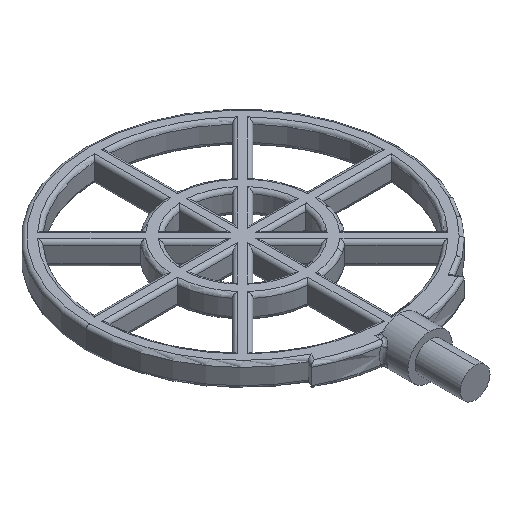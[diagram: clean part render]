
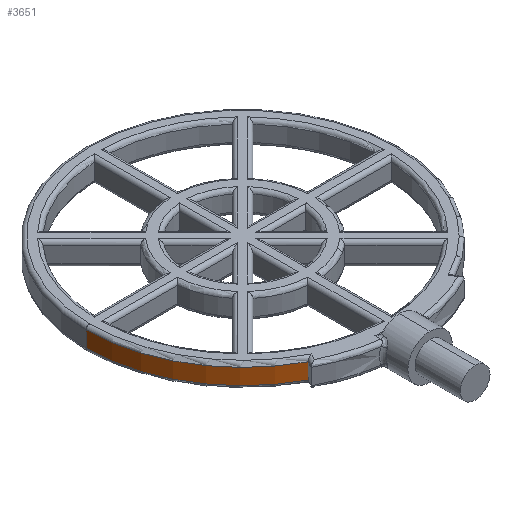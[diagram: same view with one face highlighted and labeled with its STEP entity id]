
A CAD part, isometric view. The second image highlights one B-rep face of the part: STEP entity #3651.
In plain terms, the highlighted cylindrical face has radius 11.049 mm (diameter 22.098 mm), a partial arc.
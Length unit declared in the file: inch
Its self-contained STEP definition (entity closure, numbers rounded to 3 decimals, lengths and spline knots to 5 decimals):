
#167 = CARTESIAN_POINT ( 'NONE',  ( -0.20316, 0.60536, 5.57778 ) ) ;
#168 = DIRECTION ( 'NONE',  ( 0., 0., -1. ) ) ;
#177 = CARTESIAN_POINT ( 'NONE',  ( 0., 0.99, 5.093 ) ) ;
#178 = DIRECTION ( 'NONE',  ( 0., 0., 1. ) ) ;
#179 = DIRECTION ( 'NONE',  ( 1., 0., 0. ) ) ;
#185 = CARTESIAN_POINT ( 'NONE',  ( 0., 0.99, 5.137 ) ) ;
#186 = DIRECTION ( 'NONE',  ( 0., 0., -1. ) ) ;
#187 = DIRECTION ( 'NONE',  ( 1., 0., 0. ) ) ;
#188 = CARTESIAN_POINT ( 'NONE',  ( -0.435, 0.99, 5.147 ) ) ;
#189 = DIRECTION ( 'NONE',  ( 0., 0., -1. ) ) ;
#795 = FACE_OUTER_BOUND ( 'NONE', #1148, .T. ) ;
#801 = CYLINDRICAL_SURFACE ( 'NONE', #4720, 0.435 ) ;
#1148 = EDGE_LOOP ( 'NONE', ( #2142, #2109, #2141, #2136 ) ) ;
#2109 = ORIENTED_EDGE ( 'NONE', *, *, #5329, .T. ) ;
#2136 = ORIENTED_EDGE ( 'NONE', *, *, #5323, .F. ) ;
#2141 = ORIENTED_EDGE ( 'NONE', *, *, #5325, .T. ) ;
#2142 = ORIENTED_EDGE ( 'NONE', *, *, #5327, .T. ) ;
#2537 = VERTEX_POINT ( 'NONE', #6038 ) ;
#2552 = VERTEX_POINT ( 'NONE', #6063 ) ;
#2607 = VERTEX_POINT ( 'NONE', #6409 ) ;
#2643 = VERTEX_POINT ( 'NONE', #6410 ) ;
#3651 = ADVANCED_FACE ( 'NONE', ( #795 ), #801, .T. ) ;
#3876 = DIRECTION ( 'NONE',  ( -1., 0., 0. ) ) ;
#3879 = DIRECTION ( 'NONE',  ( 0., 0., -1. ) ) ;
#3888 = CARTESIAN_POINT ( 'NONE',  ( 0., 0.99, 5.147 ) ) ;
#4720 = AXIS2_PLACEMENT_3D ( 'NONE', #3888, #3879, #3876 ) ;
#4896 = AXIS2_PLACEMENT_3D ( 'NONE', #177, #178, #179 ) ;
#4898 = AXIS2_PLACEMENT_3D ( 'NONE', #185, #186, #187 ) ;
#5323 = EDGE_CURVE ( 'NONE', #2643, #2537, #5904, .T. ) ;
#5325 = EDGE_CURVE ( 'NONE', #2607, #2537, #5907, .T. ) ;
#5327 = EDGE_CURVE ( 'NONE', #2643, #2552, #5909, .T. ) ;
#5329 = EDGE_CURVE ( 'NONE', #2552, #2607, #5911, .T. ) ;
#5904 = LINE ( 'NONE', #167, #5906 ) ;
#5906 = VECTOR ( 'NONE', #168, 39.37008 ) ;
#5907 = CIRCLE ( 'NONE', #4896, 0.435 ) ;
#5909 = CIRCLE ( 'NONE', #4898, 0.435 ) ;
#5911 = LINE ( 'NONE', #188, #5914 ) ;
#5914 = VECTOR ( 'NONE', #189, 39.37008 ) ;
#6038 = CARTESIAN_POINT ( 'NONE',  ( -0.20316, 0.60536, 5.093 ) ) ;
#6063 = CARTESIAN_POINT ( 'NONE',  ( -0.435, 0.99, 5.137 ) ) ;
#6409 = CARTESIAN_POINT ( 'NONE',  ( -0.435, 0.99, 5.093 ) ) ;
#6410 = CARTESIAN_POINT ( 'NONE',  ( -0.20316, 0.60536, 5.137 ) ) ;
